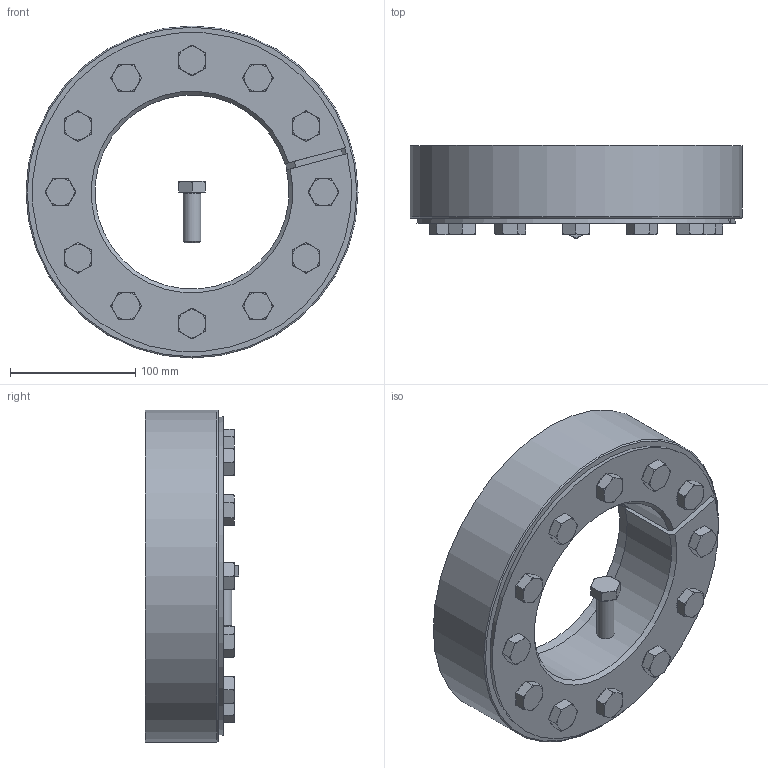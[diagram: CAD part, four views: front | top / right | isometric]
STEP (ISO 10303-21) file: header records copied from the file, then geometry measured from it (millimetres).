
FILE_DESCRIPTION( ( 'Unknown' ), '1' );
FILE_NAME( 'C:/Dokumente und Einstellungen/Sven/Desktop/homepage/cad - homepage/KBS19-1/KBS 19_1 - 155 x 265.stp', 'Unknown', ( 'Unknown' ), ( 'Unknown' ), 'XStep 1.0', 'Unknown', ' ' );
FILE_SCHEMA( ( 'automotive_design' ) );
Length unit declared in the file: millimetre
Products named in the file (3): Assem1; KBS 19_1 - 155 x 265; ISO 4017 - M14 x 40-N
Bounding box: 265 x 74.25 x 265 mm (x, y, z)
Volume: 4332765.2 mm3; surface area: 412638.8 mm2
Topology: 15 solids, 15 shells, 327 faces, 820 edges, 536 vertices
Faces by surface type: plane 161, torus 93, cylinder 54, cone 19
Full cylindrical faces by diameter (mm): 14 x37, 21.198 x13, 265 x2
Entity records: 1886 total; most frequent: CARTESIAN_POINT 407, DIRECTION 258, ORIENTED_EDGE 210, AXIS2_PLACEMENT_3D 109, EDGE_CURVE 105, EDGE_LOOP 93, VERTEX_POINT 80, FACE_OUTER_BOUND 65
